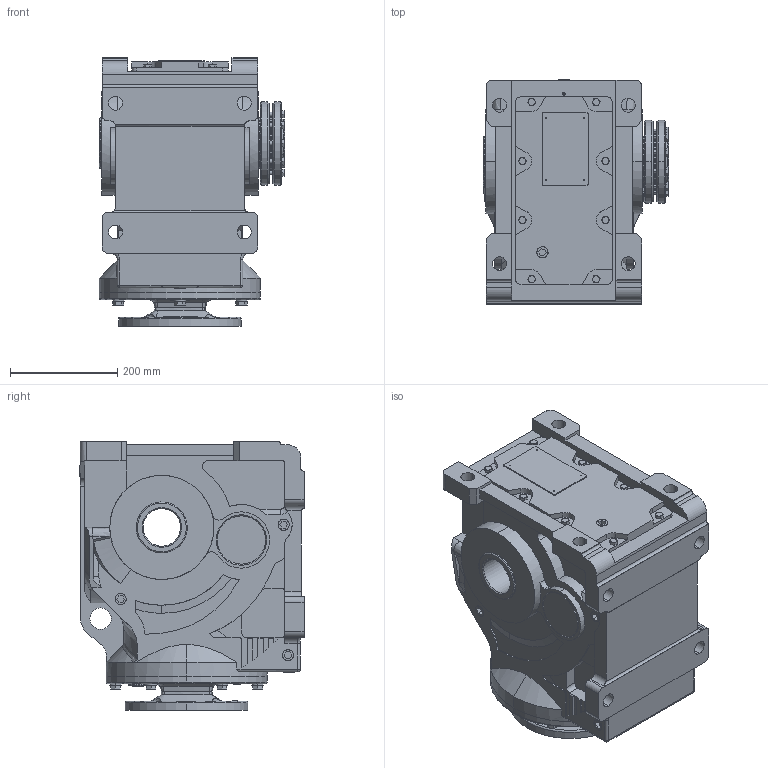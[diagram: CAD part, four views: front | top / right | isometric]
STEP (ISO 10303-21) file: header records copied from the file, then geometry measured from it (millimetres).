
FILE_DESCRIPTION (( 'STEP AP203' ), '1' );
FILE_NAME ('KHN97-182TC-A-POWER LOCK.STEP', '2020-12-04T06:19:57', ( 'Microsoft' ), ( 'Microsoft' ), 'SwSTEP 2.0', 'SolidWorks 2012', '' );
FILE_SCHEMA (( 'CONFIG_CONTROL_DESIGN' ));
Length unit declared in the file: millimetre
Products named in the file (1): KHN97-182TC-A-POWER LOCK
Bounding box: 345 x 417.5 x 501 mm (x, y, z)
Volume: 40889261.4 mm3; surface area: 1434083.8 mm2
Topology: 2 solids, 26 shells, 1754 faces, 4382 edges, 2778 vertices
Faces by surface type: plane 745, cylinder 485, cone 343, bspline 153, torus 26, sphere 2
Entity records: 64379 total; most frequent: CARTESIAN_POINT 23102, ORIENTED_EDGE 8660, DIRECTION 8318, EDGE_CURVE 4330, AXIS2_PLACEMENT_3D 3040, VERTEX_POINT 2778, LINE 2238, VECTOR 2238
